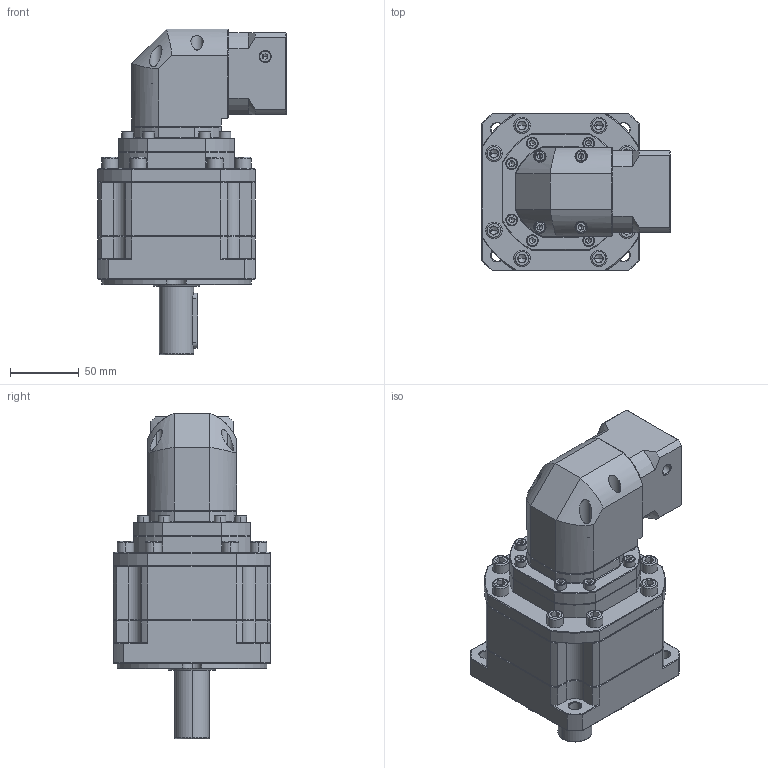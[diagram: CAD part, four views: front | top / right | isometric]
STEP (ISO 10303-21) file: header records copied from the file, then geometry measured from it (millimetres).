
FILE_DESCRIPTION (( 'STEP AP214' ), '1' );
FILE_NAME ('ZBR115A-D25-L3-P2-6.35-38.1-47.14x47.14-M4.step', '2023-08-26T14:06:01', ( '' ), ( '' ), 'SwSTEP 2.0', 'SolidWorks 2016', '' );
FILE_SCHEMA (( 'AUTOMOTIVE_DESIGN' ));
Length unit declared in the file: millimetre
Products named in the file (1): ZBR115A-D25-L3-P2-6.35-38.1-47.14x47.14-M4
Bounding box: 137.7 x 115 x 237.5 mm (x, y, z)
Volume: 1556539.9 mm3; surface area: 146225.8 mm2
Topology: 6 solids, 6 shells, 2632 faces, 6905 edges, 4394 vertices
Faces by surface type: plane 1300, cylinder 479, bspline 455, cone 390, torus 8
Entity records: 134604 total; most frequent: CARTESIAN_POINT 44437, ORIENTED_EDGE 13686, DIRECTION 11099, EDGE_CURVE 6843, VERTEX_POINT 4394, VECTOR 4347, LINE 4347, AXIS2_PLACEMENT_3D 3376
